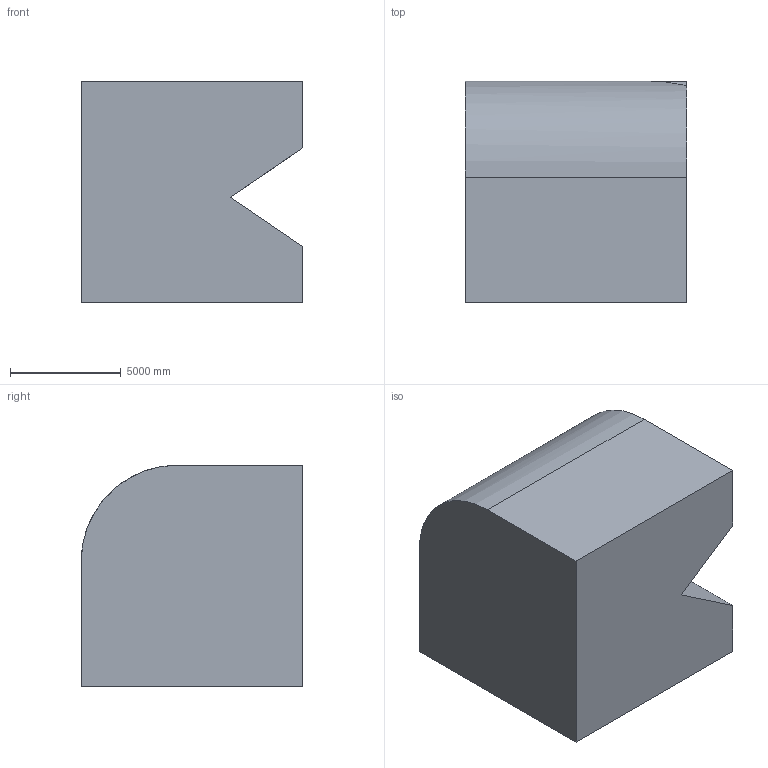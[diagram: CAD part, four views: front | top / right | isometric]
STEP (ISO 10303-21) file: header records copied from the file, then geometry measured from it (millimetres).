
FILE_DESCRIPTION (( 'STEP AP203' ), '1' );
FILE_NAME ('24.STEP', '2022-08-31T11:11:53', ( 'user' ), ( '' ), 'SwSTEP 2.0', 'SolidWorks 2021', '' );
FILE_SCHEMA (( 'CONFIG_CONTROL_DESIGN' ));
Length unit declared in the file: centimetre
Products named in the file (1): 24
Bounding box: 10000 x 10000 x 10000 mm (x, y, z)
Volume: 886579081240.1 mm3; surface area: 593350278.7 mm2
Topology: 1 solids, 1 shells, 10 faces, 24 edges, 16 vertices
Faces by surface type: plane 9, cylinder 1
Entity records: 367 total; most frequent: CARTESIAN_POINT 54, ORIENTED_EDGE 48, DIRECTION 47, EDGE_CURVE 24, VECTOR 21, LINE 21, VERTEX_POINT 16, AXIS2_PLACEMENT_3D 13
